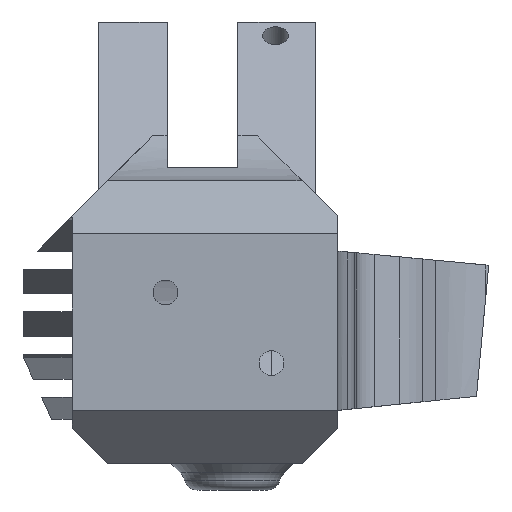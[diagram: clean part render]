
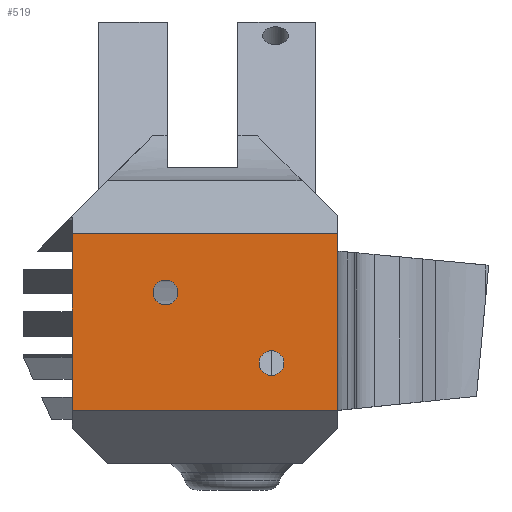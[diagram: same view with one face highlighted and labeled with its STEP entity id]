
A CAD part, left-side view. The second image highlights one B-rep face of the part: STEP entity #519.
In plain terms, the highlighted planar face has unit normal (-1, 0, 0).
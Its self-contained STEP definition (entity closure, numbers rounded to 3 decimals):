
#324=FACE_BOUND('',#1041,.T.);
#325=FACE_BOUND('',#1042,.T.);
#326=FACE_BOUND('',#1043,.T.);
#421=CIRCLE('',#4063,1.4);
#422=CIRCLE('',#4064,1.4);
#519=ADVANCED_FACE('',(#324,#325,#326),#724,.F.);
#724=PLANE('',#4065);
#1041=EDGE_LOOP('',(#1607,#1608,#1609,#1610));
#1042=EDGE_LOOP('',(#1611));
#1043=EDGE_LOOP('',(#1612));
#1607=ORIENTED_EDGE('',*,*,#2890,.F.);
#1608=ORIENTED_EDGE('',*,*,#3037,.T.);
#1609=ORIENTED_EDGE('',*,*,#2991,.F.);
#1610=ORIENTED_EDGE('',*,*,#3038,.T.);
#1611=ORIENTED_EDGE('',*,*,#3039,.T.);
#1612=ORIENTED_EDGE('',*,*,#3040,.F.);
#2503=VERTEX_POINT('',#5575);
#2504=VERTEX_POINT('',#5577);
#2586=VERTEX_POINT('',#5833);
#2587=VERTEX_POINT('',#5835);
#2626=VERTEX_POINT('',#6001);
#2627=VERTEX_POINT('',#6003);
#2890=EDGE_CURVE('',#2503,#2504,#3387,.T.);
#2991=EDGE_CURVE('',#2586,#2587,#3467,.T.);
#3037=EDGE_CURVE('',#2503,#2587,#3496,.T.);
#3038=EDGE_CURVE('',#2586,#2504,#3497,.T.);
#3039=EDGE_CURVE('',#2626,#2626,#421,.T.);
#3040=EDGE_CURVE('',#2627,#2627,#422,.T.);
#3387=LINE('',#5576,#3711);
#3467=LINE('',#5834,#3791);
#3496=LINE('',#5998,#3820);
#3497=LINE('',#5999,#3821);
#3711=VECTOR('',#4474,1.);
#3791=VECTOR('',#4604,1.);
#3820=VECTOR('',#4661,1.);
#3821=VECTOR('',#4662,1.);
#4063=AXIS2_PLACEMENT_3D('',#6000,#4663,#4664);
#4064=AXIS2_PLACEMENT_3D('',#6002,#4665,#4666);
#4065=AXIS2_PLACEMENT_3D('',#6004,#4667,#4668);
#4474=DIRECTION('',(0.,0.,-1.));
#4604=DIRECTION('',(0.,0.,1.));
#4661=DIRECTION('',(0.,1.,0.));
#4662=DIRECTION('',(0.,-1.,0.));
#4663=DIRECTION('',(1.,0.,0.));
#4664=DIRECTION('',(0.,0.,-1.));
#4665=DIRECTION('',(-1.,0.,0.));
#4666=DIRECTION('',(0.,0.,-1.));
#4667=DIRECTION('',(1.,0.,0.));
#4668=DIRECTION('',(0.,0.,-1.));
#5575=CARTESIAN_POINT('',(-59.,-15.,10.));
#5576=CARTESIAN_POINT('',(-59.,-15.,16.));
#5577=CARTESIAN_POINT('',(-59.,-15.,-10.));
#5833=CARTESIAN_POINT('',(-59.,15.,-10.));
#5834=CARTESIAN_POINT('',(-59.,15.,-16.));
#5835=CARTESIAN_POINT('',(-59.,15.,10.));
#5998=CARTESIAN_POINT('',(-59.,0.,10.));
#5999=CARTESIAN_POINT('',(-59.,0.,-10.));
#6000=CARTESIAN_POINT('',(-59.,-7.55,-4.644));
#6001=CARTESIAN_POINT('',(-59.,-7.55,-6.044));
#6002=CARTESIAN_POINT('',(-59.,4.45,3.356));
#6003=CARTESIAN_POINT('',(-59.,4.45,1.956));
#6004=CARTESIAN_POINT('',(-59.,0.,0.));
